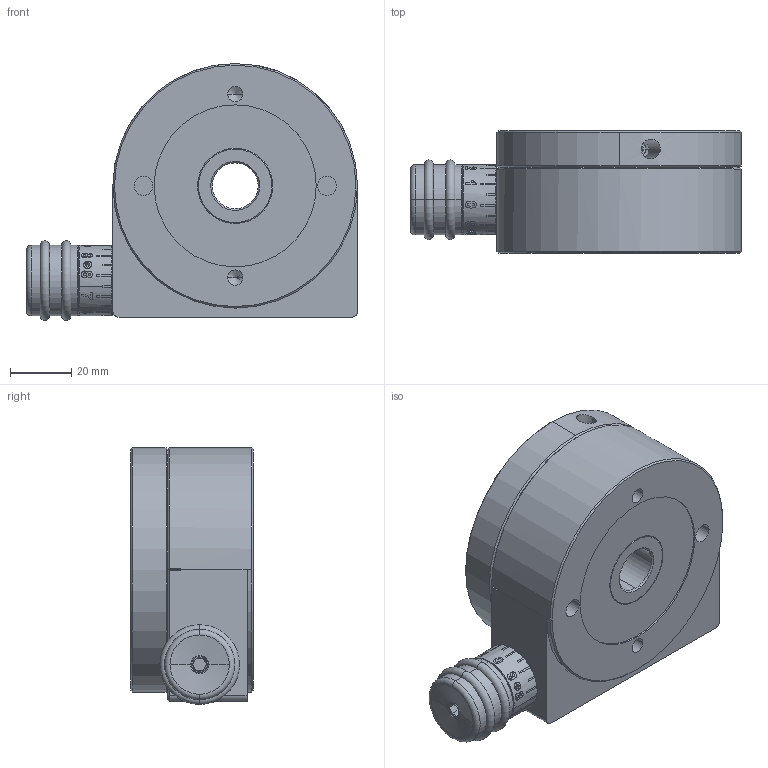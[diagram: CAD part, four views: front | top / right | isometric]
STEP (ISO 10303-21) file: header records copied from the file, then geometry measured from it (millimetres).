
FILE_DESCRIPTION (( 'STEP AP203' ), '1' );
FILE_NAME ('DT36012-SK-Drehtisch.STEP', '2016-01-15T15:31:36', ( '' ), ( '' ), 'SwSTEP 2.0', 'SolidWorks 2014', '' );
FILE_SCHEMA (( 'CONFIG_CONTROL_DESIGN' ));
Products named in the file (3): DT36012-SK-Drehtisch; DT36012-000-Drehtisch-Gehäuse-SK; DT36012-000-03-Drehscheibe-SKPAE-komplett
Assembly tree (2 placements, depth 2):
  DT36012-SK-Drehtisch
    DT36012-000-Drehtisch-Gehäuse-SK
    DT36012-000-03-Drehscheibe-SKPAE-komplett
Bounding box: 108.27 x 40 x 84.03 mm (x, y, z)
Volume: 207634.8 mm3; surface area: 64804.7 mm2
Topology: 4 solids, 8 shells, 1196 faces, 3225 edges, 2083 vertices
Faces by surface type: plane 394, cylinder 305, bspline 214, torus 150, cone 125, sphere 8
Entity records: 57127 total; most frequent: CARTESIAN_POINT 29810, ORIENTED_EDGE 6382, DIRECTION 4649, EDGE_CURVE 3191, VERTEX_POINT 2080, AXIS2_PLACEMENT_3D 1899, B_SPLINE_CURVE_WITH_KNOTS 1317, EDGE_LOOP 1297
